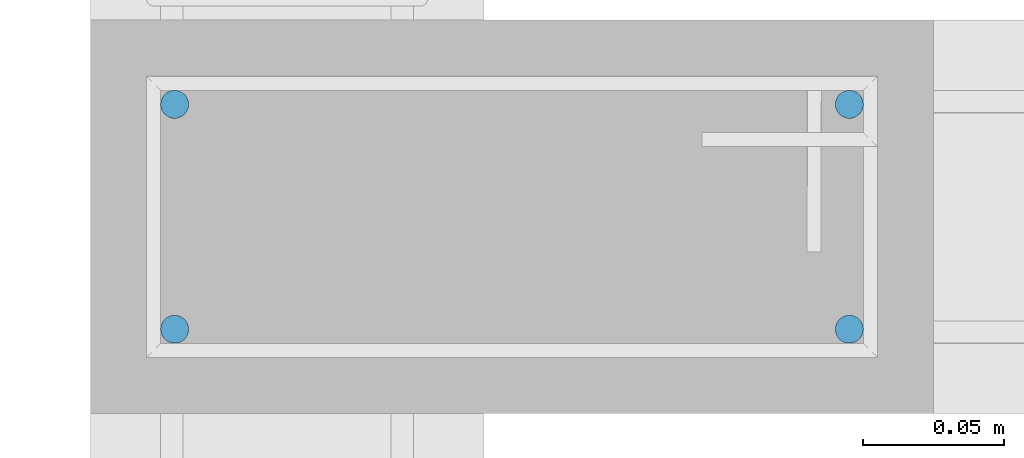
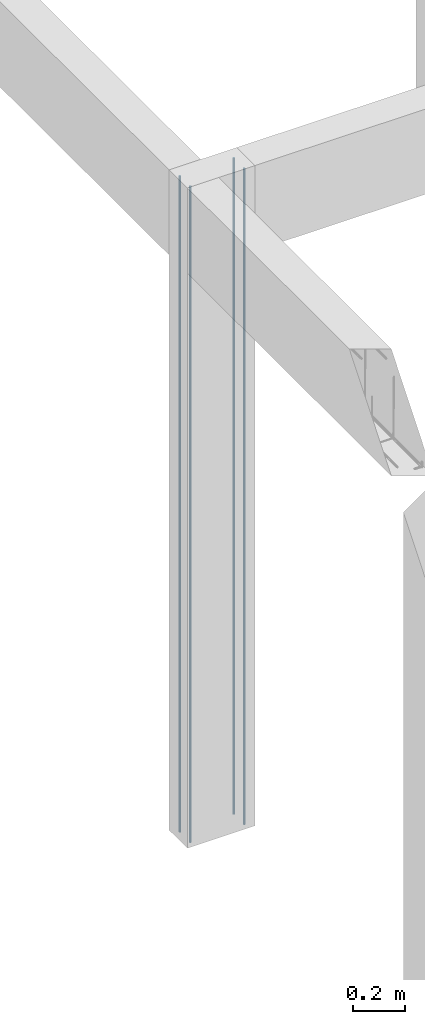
# One storey, part 89 of 236: 4 reinforcing bars.
"""IFC4 building model written with IfcOpenShell, lengths in centimetres."""

from ifc_helpers import new_model, entity, si_unit, derived_unit, frame, origin_with_axes, place, context, project, spatial, element, save


model = new_model("IFC4")

# Units and contexts
model_context = context("Model", 3, precision=1e-05, world=origin_with_axes(), identifier="Body")
ifc_project = project(units=[si_unit("LENGTHUNIT", "METRE", prefix="CENTI"), si_unit("VOLUMEUNIT", "CUBIC_METRE"), si_unit("AREAUNIT", "SQUARE_METRE"), si_unit("POWERUNIT", "WATT"), si_unit("LUMINOUSFLUXUNIT", "LUMEN"), si_unit("ELECTRICCURRENTUNIT", "AMPERE"), si_unit("PRESSUREUNIT", "PASCAL", prefix="KILO"), si_unit("MASSUNIT", "GRAM", prefix="KILO"), si_unit("PLANEANGLEUNIT", "RADIAN"), derived_unit("VOLUMETRICFLOWRATEUNIT", [(si_unit("LENGTHUNIT", "METRE"), 3), (si_unit("TIMEUNIT", "SECOND"), -1)])], contexts=[model_context])

# Site, building, storey
site_placement = place(None, frame((-4000.0, 0.0, 0.0), z_axis=(0.0, 0.0, 1.0), x_axis=(1.0, 0.0, 0.0)))
site = spatial("IfcSite", under=ifc_project, at=site_placement, Name="PADRÃO")
building_placement = place(site_placement, frame((0.0, 0.0, -14.0)))
building = spatial("IfcBuilding", under=site, at=building_placement, Name="CRECHE PRÉ-ESCOLA TIPO 2")
placement_1 = place(building_placement, origin_with_axes())
placement_2 = place(placement_1, frame((0.0, 0.0, 30.0), z_axis=(0.0, 0.0, 1.0), x_axis=(1.0, 0.0, 0.0)))
storey_placement = place(placement_2, frame((0.0, 0.0, 310.0), z_axis=(0.0, 0.0, 1.0), x_axis=(1.0, 0.0, 0.0)))
storey = spatial("IfcBuildingStorey", under=building, at=storey_placement, Name="TERREO", CompositionType="ELEMENT", Elevation=326.0)

# Reinforcing bars
for number, where, z_axis, x_axis, name in (
    (1, (2543.5, 2574.52, -2.0), (0.0, 0.0, 1.0), (1.0, 0.0, 0.0), "P72 - Longitudinal"),
    (2, (2519.5, 2582.52, -2.0), (0.0, 0.0, 1.0), (1.0, 0.0, 0.0), "P72 - Longitudinal"),
    (3, (2519.5, 2574.52, -2.0), (0.0, 0.0, 1.0), (1.0, 0.0, 0.0), "P72 - Longitudinal"),
    (4, (2543.5, 2582.52, -2.0), (0.0, 0.0, 1.0), (1.0, 0.0, 0.0), "P72 - Longitudinal"),
):
    element("IfcReinforcingBar", number, at=place(storey_placement, frame(where, z_axis=z_axis, x_axis=x_axis)), inside=storey, Name=name, BarLength=0.0, CrossSectionArea=7.853981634e-05, NominalDiameter=1.0, PredefinedType="MAIN", context=model_context, shape_type="AdvancedSweptSolid", body=[
        entity("IfcSweptDiskSolid", entity("IfcCompositeCurve", [entity("IfcCompositeCurveSegment", "CONTINUOUS", True, entity("IfcPolyline", [entity("IfcCartesianPoint", [0.0, 0.0, -308.0]), entity("IfcCartesianPoint", [0.0, 0.0, 0.0])]))], False), 0.5),
    ])

save(model, "model.ifc")
